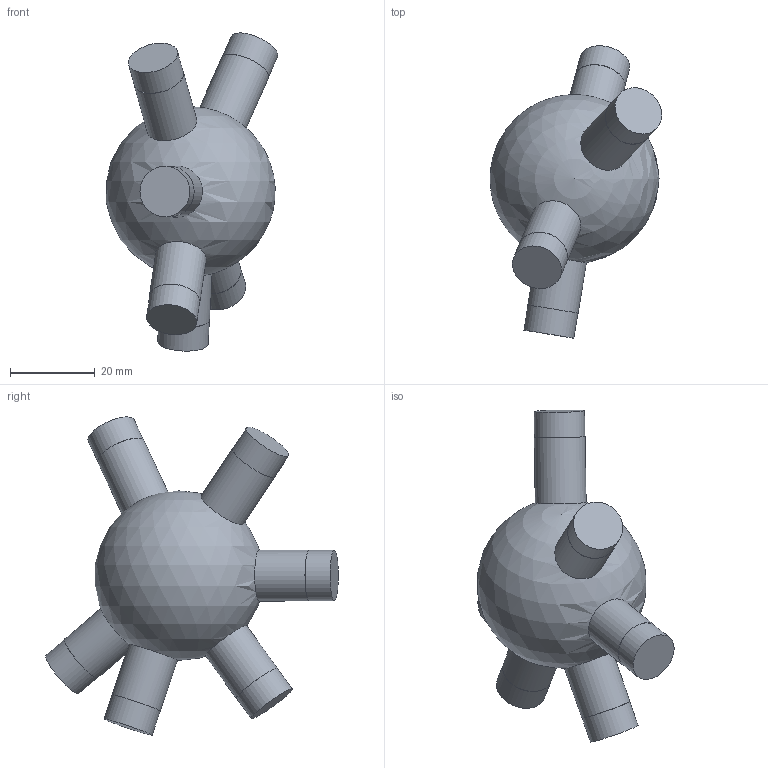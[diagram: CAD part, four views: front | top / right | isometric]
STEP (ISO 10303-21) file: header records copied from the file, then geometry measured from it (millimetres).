
FILE_DESCRIPTION(('Open CASCADE Model'),'2;1');
FILE_NAME('Open CASCADE Shape Model','2026-10-21T12:47:57',('Author'),( 'Open CASCADE'),'Open CASCADE STEP processor 7.9','Open CASCADE 7.9' ,'Unknown');
FILE_SCHEMA(('AUTOMOTIVE_DESIGN { 1 0 10303 214 1 1 1 1 }'));
Length unit declared in the file: millimetre
Products named in the file (1): Open CASCADE STEP translator 7.9 30
Bounding box: 40.48 x 68.97 x 75 mm (x, y, z)
Volume: 46023 mm3; surface area: 9296.3 mm2
Topology: 1 solids, 1 shells, 25 faces, 43 edges, 29 vertices
Faces by surface type: cylinder 12, plane 12, sphere 1
Full cylindrical faces by diameter (mm): 11.9 x6, 12 x6
Entity records: 1903 total; most frequent: CARTESIAN_POINT 977, DIRECTION 188, ORIENTED_EDGE 80, PCURVE 80, DEFINITIONAL_REPRESENTATION 80, LINE 62, VECTOR 62, AXIS2_PLACEMENT_3D 54
